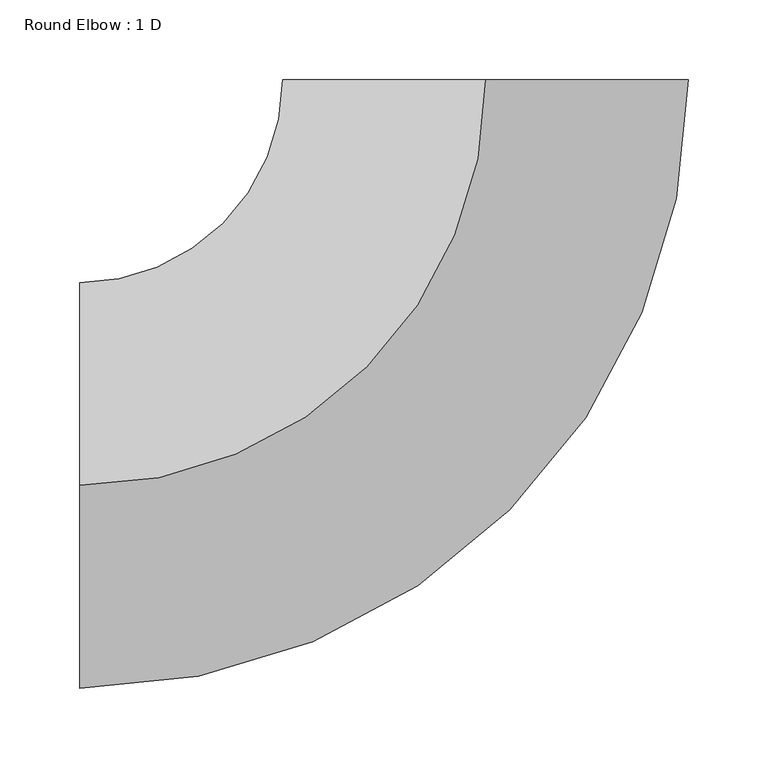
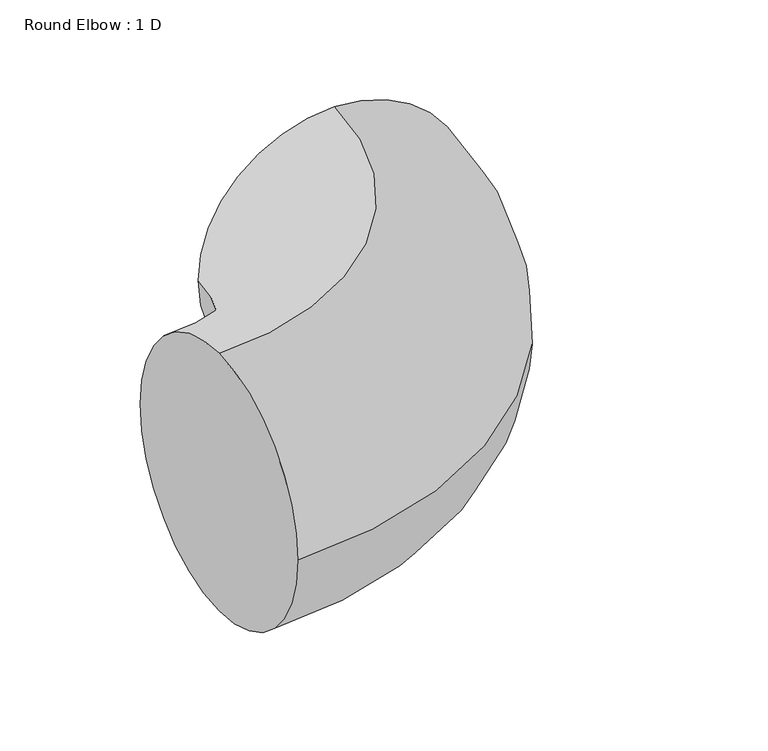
"""IFC4 building model written with IfcOpenShell, lengths in millimetres: duct fitting geometry, Round Elbow : 1 D."""

from ifc_helpers import new_model, si_unit, point, frame, origin, place, context, project, spatial, circle_curve, ellipse_curve, trimmed, source, transform, mapped, element, save
from ifc_brep_helpers import plane_surface, revolved_surface, advanced_brep


def round_elbow_1_d_eb5e9ad8(model_context):
    return source(origin(), model_context, "Body", "AdvancedBrep", [
        advanced_brep(
        [(-253.9956994, 0.0, 127.0), (-253.9956994, 127.0, 0.0), (-253.9956994, 0.0, -127.0), (-253.9956994, -127.0, 0.0), (0.0043006, 253.9956994, 127.0), (127.0043005, 253.993549, 0.0), (0.0043006, 253.9956994, -127.0), (-126.9956994, 253.9978497, 0.0)],
        [
            (0, 1, circle_curve(frame((-253.9956994, 0.0, 0.0), z_axis=(-1.0, 0.0, 0.0), x_axis=(0.0, 1.0, 0.0)), 127.0)),
            (1, 2, circle_curve(frame((-253.9956994, 0.0, 0.0), z_axis=(-1.0, 0.0, 0.0), x_axis=(0.0, 1.0, 0.0)), 127.0)),
            (2, 3, circle_curve(frame((-253.9956994, 0.0, 0.0), z_axis=(-1.0, 0.0, 0.0), x_axis=(0.0, 1.0, 0.0)), 127.0)),
            (3, 0, circle_curve(frame((-253.9956994, 0.0, 0.0), z_axis=(-1.0, 0.0, 0.0), x_axis=(0.0, 1.0, 0.0)), 127.0)),
            (4, 5, circle_curve(frame((0.0043006, 253.9956994, 0.0), z_axis=(1.693163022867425e-05, 0.99999999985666, 0.0), x_axis=(-0.99999999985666, 1.693163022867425e-05, 0.0)), 127.0)),
            (5, 6, circle_curve(frame((0.0043006, 253.9956994, 0.0), z_axis=(1.693163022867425e-05, 0.99999999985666, 0.0), x_axis=(-0.99999999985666, 1.693163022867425e-05, 0.0)), 127.0)),
            (6, 7, circle_curve(frame((0.0043006, 253.9956994, 0.0), z_axis=(1.693163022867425e-05, 0.99999999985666, 0.0), x_axis=(-0.99999999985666, 1.693163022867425e-05, 0.0)), 127.0)),
            (7, 4, circle_curve(frame((0.0043006, 253.9956994, 0.0), z_axis=(1.693163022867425e-05, 0.99999999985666, 0.0), x_axis=(-0.99999999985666, 1.693163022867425e-05, 0.0)), 127.0)),
            (7, 1, circle_curve(frame((-253.9956994, 254.0, 0.0), z_axis=(0.0, 0.0, -1.0), x_axis=(0.0, -1.0, 0.0)), 127.0)),
            (0, 4, circle_curve(frame((-253.9956994, 254.0, 127.0), z_axis=(0.0, 0.0, 1.0), x_axis=(0.0, -1.0, 0.0)), 254.0)),
            (6, 2, circle_curve(frame((-253.9956994, 254.0, -127.0), z_axis=(0.0, 0.0, -1.0), x_axis=(0.0, -1.0, 0.0)), 254.0)),
            (5, 3, circle_curve(frame((-253.9956994, 254.0, 0.0), z_axis=(0.0, 0.0, -1.0), x_axis=(0.0, -1.0, 0.0)), 381.0)),
        ],
        [
            plane_surface(frame((-253.9956994, 0.0, 0.0), z_axis=(-1.0, 0.0, 0.0), x_axis=(0.0, 0.0, 1.0))),
            plane_surface(frame((0.0043006, 253.9956994, 0.0), z_axis=(1.6931630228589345e-05, 0.9999999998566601, 0.0), x_axis=(0.0, 0.0, 1.0))),
            revolved_surface(trimmed(ellipse_curve(frame((-253.9956994, 0.0, 0.0), z_axis=(-1.0, 0.0, 0.0), x_axis=(0.0, 1.0, 0.0)), 127.0, 127.0), [point((-253.9956994, 0.0, 127.0))], [point((-253.9956994, 127.0, 0.0))], True, "CARTESIAN"), (-253.9956994, 254.0, 0.0), (0.0, 0.0, 1.0)),
            revolved_surface(trimmed(ellipse_curve(frame((-253.9956994, 0.0, 0.0), z_axis=(-1.0, 0.0, 0.0), x_axis=(0.0, 1.0, 0.0)), 127.0, 127.0), [point((-253.9956994, 127.0, 0.0))], [point((-253.9956994, 0.0, -127.0))], True, "CARTESIAN"), (-253.9956994, 254.0, 0.0), (0.0, 0.0, 1.0)),
            revolved_surface(trimmed(ellipse_curve(frame((-253.9956994, 0.0, 0.0), z_axis=(-1.0, 0.0, 0.0), x_axis=(0.0, 1.0, 0.0)), 127.0, 127.0), [point((-253.9956994, 0.0, -127.0))], [point((-253.9956994, -127.0, 0.0))], True, "CARTESIAN"), (-253.9956994, 254.0, 0.0), (0.0, 0.0, 1.0)),
            revolved_surface(trimmed(ellipse_curve(frame((-253.9956994, 0.0, 0.0), z_axis=(-1.0, 0.0, 0.0), x_axis=(0.0, 1.0, 0.0)), 127.0, 127.0), [point((-253.9956994, -127.0, 0.0))], [point((-253.9956994, 0.0, 127.0))], True, "CARTESIAN"), (-253.9956994, 254.0, 0.0), (0.0, 0.0, 1.0)),
        ],
        [
            (0, [[1, 2, 3, 4]]),
            (1, [[5, 6, 7, 8]]),
            (2, [[9, -1, 10, -8]]),
            (3, [[11, -2, -9, -7]]),
            (4, [[12, -3, -11, -6]]),
            (5, [[-10, -4, -12, -5]]),
        ],
    ),
    ])


if __name__ == "__main__":
    model = new_model("IFC4")
    model_context = context("Model", 3, world=origin())
    ifc_project = project(units=[si_unit("LENGTHUNIT", "METRE", prefix="MILLI")], contexts=[model_context])
    site = spatial("IfcSite", under=ifc_project)
    building = spatial("IfcBuilding", under=site)
    placement = place(None, origin())
    round_elbow_1_d_shape = round_elbow_1_d_eb5e9ad8(model_context)
    element("IfcDuctFitting", 1, ObjectType="Round Elbow : 1 D", at=placement, inside=building, context=model_context, shape_type="MappedRepresentation", body=[
        mapped(round_elbow_1_d_shape, transform((0.0, 0.0, 0.0), x_axis=(1.0, 0.0, 0.0), y_axis=(0.0, 1.0, 0.0), z_axis=(0.0, 0.0, 1.0))),
    ])
    save(model, "model.ifc")
